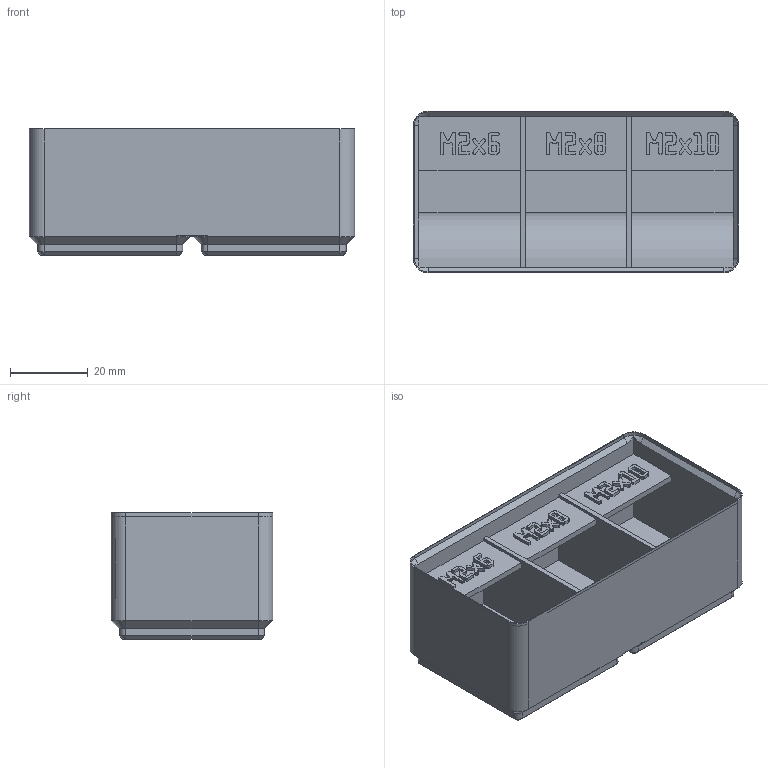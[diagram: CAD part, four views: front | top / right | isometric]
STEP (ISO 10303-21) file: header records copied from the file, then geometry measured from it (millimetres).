
FILE_DESCRIPTION(('Open CASCADE Model'),'2;1');
FILE_NAME('Open CASCADE Shape Model','2026-11-16T17:31:20',('Author'),( 'Open CASCADE'),'Open CASCADE STEP processor 8.0','build123d', 'Unknown');
FILE_SCHEMA(('AUTOMOTIVE_DESIGN { 1 0 10303 214 1 1 1 1 }'));
Products named in the file (1): SOLID
Bounding box: 83.5 x 41.5 x 32.4 mm (x, y, z)
Volume: 49371 mm3; surface area: 23479.5 mm2
Topology: 1 solids, 1 shells, 1502 faces, 4384 edges, 2904 vertices
Faces by surface type: plane 1459, cylinder 23, cone 20
Entity records: 102856 total; most frequent: CARTESIAN_POINT 20669, DIRECTION 13294, LINE 10140, VECTOR 10140, ORIENTED_EDGE 8768, PCURVE 8768, DEFINITIONAL_REPRESENTATION 8768, EDGE_CURVE 4384
